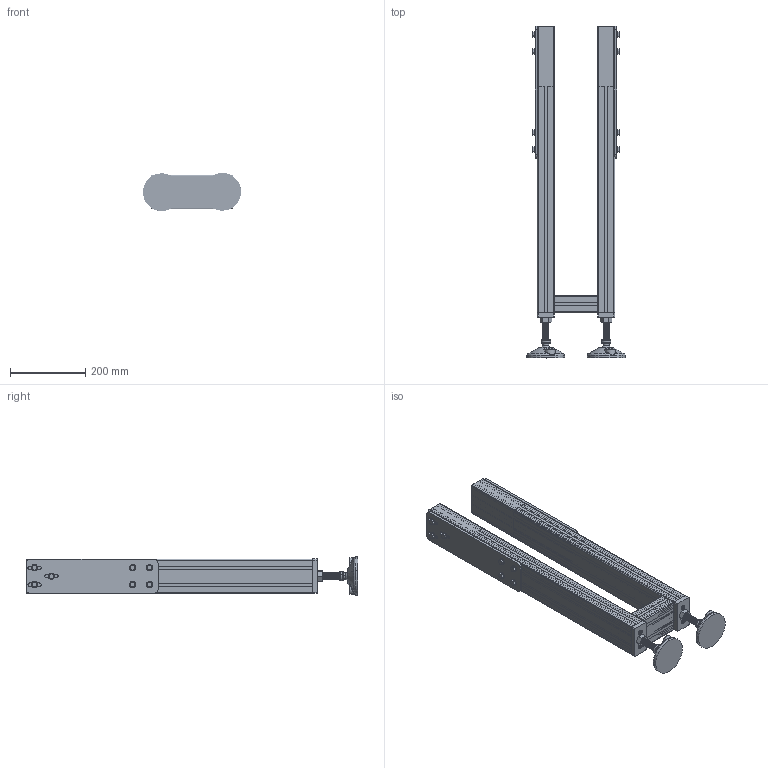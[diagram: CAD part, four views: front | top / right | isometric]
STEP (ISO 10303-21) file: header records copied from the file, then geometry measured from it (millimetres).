
FILE_DESCRIPTION (( 'STEP AP203' ), '1' );
FILE_NAME ('2000.750.KP.STEP', '2021-03-25T11:08:49', ( 'Localadmin' ), ( 'Microsoft' ), 'SwSTEP 2.0', 'SolidWorks 2018', '' );
FILE_SCHEMA (( 'CONFIG_CONTROL_DESIGN' ));
Length unit declared in the file: millimetre
Products named in the file (13): 084.709.002_084.709.002; 084.302.000 DADI ALUSIC 13x13-1_084.302.004; RONDELLE UNI 6592_8.4x17 UNI 6592; 2000.1200.001.GAMBE_Default<A macchina>; VITI TE UNI 5739_M8x20 UNI 5739; 084.405.001; 084.000.A05_CON GIUNTI; 084.402.005; DADI ESAGONALI NORMALI UNI 5588_M16 UNI 5588; 2000.750.KP; 084.301.000 VITI ALUSIC_084.301.003; 084.000.A07_CON PIEDE 084.402.005
Assembly tree (45 placements, depth 3):
  2000.750.KP
    2000.1200.001.GAMBE_Default<A macchina>
    084.000.A07_CON PIEDE 084.402.005  x2
      084.405.001
      084.402.005
      DADI ESAGONALI NORMALI UNI 5588_M16 UNI 5588
      084.301.000 VITI ALUSIC_084.301.003
    084.000.A05_CON GIUNTI
      084.709.002_084.709.002
      084.302.000 DADI ALUSIC 13x13-1_084.302.004  x2
      RONDELLE UNI 6592_8.4x17 UNI 6592  x6
      VITI TE UNI 5739_M8x20 UNI 5739  x7
    084.000.A05_CON GIUNTI
      084.709.002_084.709.002
      084.302.000 DADI ALUSIC 13x13-1_084.302.004  x3
      RONDELLE UNI 6592_8.4x17 UNI 6592  x7
      VITI TE UNI 5739_M8x20 UNI 5739  x7
    084.302.000 DADI ALUSIC 13x13-1_084.302.004
Bounding box: 259.97 x 880 x 101.06 mm (x, y, z)
Volume: 3702169.9 mm3; surface area: 2862882.9 mm2
Topology: 53 solids, 53 shells, 2233 faces, 5937 edges, 3840 vertices
Faces by surface type: cylinder 971, plane 892, cone 168, torus 138, bspline 64
Entity records: 57986 total; most frequent: CARTESIAN_POINT 20548, ORIENTED_EDGE 7634, DIRECTION 7233, EDGE_CURVE 3817, VERTEX_POINT 2507, AXIS2_PLACEMENT_3D 2440, LINE 2353, VECTOR 2353
